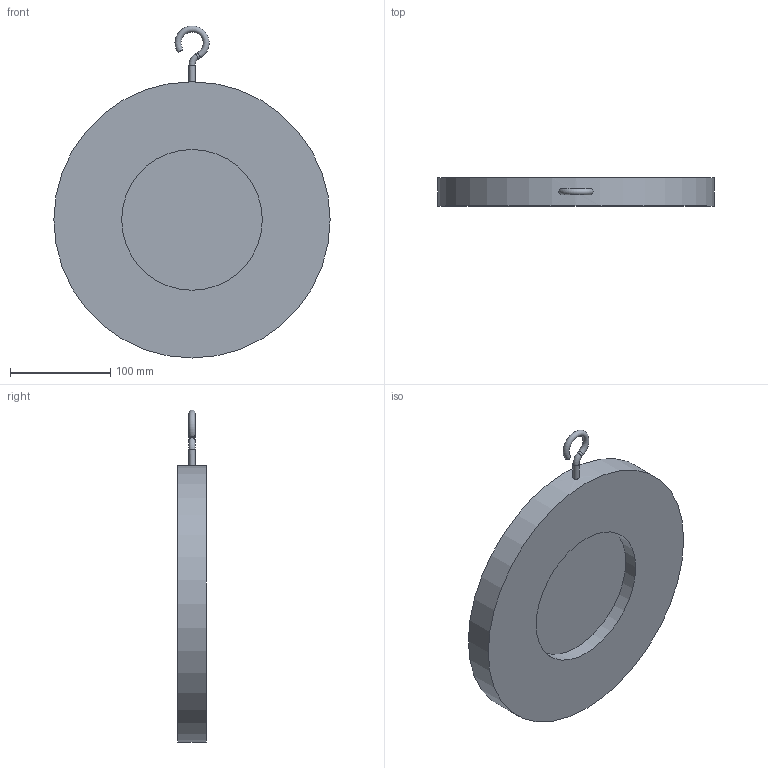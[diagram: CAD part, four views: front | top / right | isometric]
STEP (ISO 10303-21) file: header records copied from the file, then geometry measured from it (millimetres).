
FILE_DESCRIPTION(('STEP AP203'), '1');
FILE_NAME('孰囡囗 钺疣蝽 钿眍耱忸瘅囹 戾骠豚眦邂 008C.Y DN200', '', ('UNSPECIFIED'), ('UNSPECIFIED'), 'ASCON STEP Converter 1.6', 'ASCON Math Kernel', '');
FILE_SCHEMA(('CONFIG_CONTROL_DESIGN'));
Length unit declared in the file: millimetre
Bounding box: 275 x 28 x 330.48 mm (x, y, z)
Volume: 1174778.3 mm3; surface area: 161902.5 mm2
Topology: 1 solids, 1 shells, 32 faces, 72 edges, 47 vertices
Faces by surface type: plane 17, cylinder 12, torus 2, cone 1
Full cylindrical faces by diameter (mm): 6 x2, 140 x1, 275 x1
Entity records: 1391 total; most frequent: CARTESIAN_POINT 392, DIRECTION 152, ORIENTED_EDGE 130, EDGE_CURVE 65, AXIS2_PLACEMENT_3D 59, VERTEX_POINT 47, EDGE_LOOP 44, LINE 34
